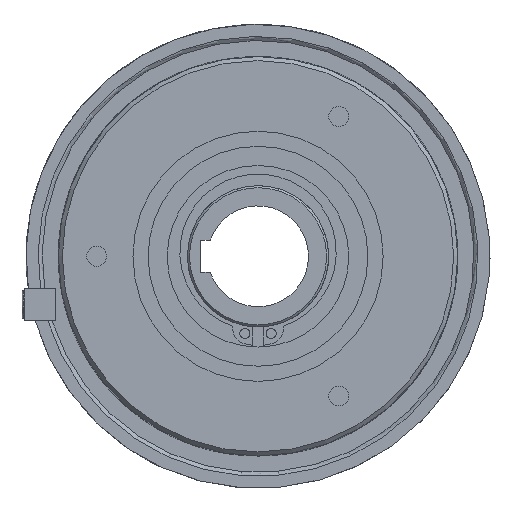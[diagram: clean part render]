
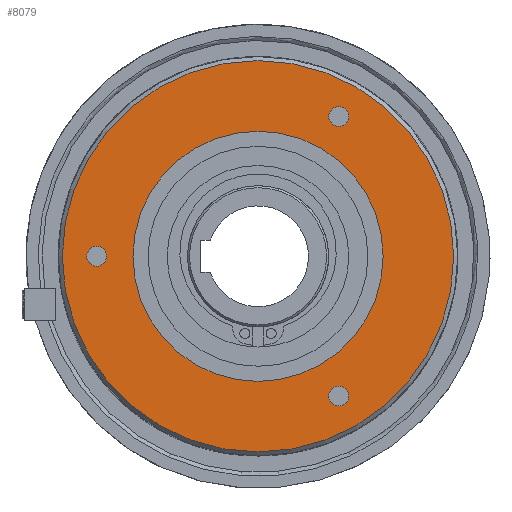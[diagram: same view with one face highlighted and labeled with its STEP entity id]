
A CAD part, left-side view. The second image highlights one B-rep face of the part: STEP entity #8079.
In plain terms, the highlighted planar face has unit normal (-1, 0, 0).
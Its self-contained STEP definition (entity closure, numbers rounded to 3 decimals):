
#73=CARTESIAN_POINT('',(-33.9,48.5,0.));
#74=VERTEX_POINT('',#73);
#75=CARTESIAN_POINT('',(-33.9,0.,0.));
#76=DIRECTION('',(1.0,0.0,0.0));
#77=DIRECTION('',(0.0,-1.0,0.0));
#78=AXIS2_PLACEMENT_3D('',#75,#76,#77);
#79=CIRCLE('',#78,48.5);
#80=EDGE_CURVE('',#74,#74,#79,.T.);
#8027=CARTESIAN_POINT('',(-33.9,40.25,0.));
#8028=DIRECTION('',(-1.0,0.0,0.0));
#8029=DIRECTION('',(0.0,0.0,1.0));
#8030=AXIS2_PLACEMENT_3D('',#8027,#8028,#8029);
#8031=PLANE('',#8030);
#8032=ORIENTED_EDGE('',*,*,#80,.F.);
#8033=EDGE_LOOP('',(#8032));
#8034=FACE_OUTER_BOUND('',#8033,.T.);
#8035=CARTESIAN_POINT('',(-33.9,31.0,0.));
#8036=VERTEX_POINT('',#8035);
#8037=CARTESIAN_POINT('',(-33.9,0.,0.));
#8038=DIRECTION('',(1.0,0.0,0.0));
#8039=DIRECTION('',(0.0,1.0,0.0));
#8040=AXIS2_PLACEMENT_3D('',#8037,#8038,#8039);
#8041=CIRCLE('',#8040,31.0);
#8042=EDGE_CURVE('',#8036,#8036,#8041,.T.);
#8043=ORIENTED_EDGE('',*,*,#8042,.T.);
#8044=EDGE_LOOP('',(#8043));
#8045=FACE_BOUND('',#8044,.T.);
#8046=CARTESIAN_POINT('',(-33.9,40.0,2.458));
#8047=VERTEX_POINT('',#8046);
#8048=CARTESIAN_POINT('',(-33.9,40.0,0.));
#8049=DIRECTION('',(1.0,0.0,0.0));
#8050=DIRECTION('',(0.0,0.0,1.0));
#8051=AXIS2_PLACEMENT_3D('',#8048,#8049,#8050);
#8052=CIRCLE('',#8051,2.459);
#8053=EDGE_CURVE('',#8047,#8047,#8052,.T.);
#8054=ORIENTED_EDGE('',*,*,#8053,.T.);
#8055=EDGE_LOOP('',(#8054));
#8056=FACE_BOUND('',#8055,.T.);
#8057=CARTESIAN_POINT('',(-33.9,-20.,-32.183));
#8058=VERTEX_POINT('',#8057);
#8059=CARTESIAN_POINT('',(-33.9,-20.,-34.641));
#8060=DIRECTION('',(1.0,0.0,0.0));
#8061=DIRECTION('',(0.0,0.0,1.0));
#8062=AXIS2_PLACEMENT_3D('',#8059,#8060,#8061);
#8063=CIRCLE('',#8062,2.459);
#8064=EDGE_CURVE('',#8058,#8058,#8063,.T.);
#8065=ORIENTED_EDGE('',*,*,#8064,.T.);
#8066=EDGE_LOOP('',(#8065));
#8067=FACE_BOUND('',#8066,.T.);
#8068=CARTESIAN_POINT('',(-33.9,-20.,37.1));
#8069=VERTEX_POINT('',#8068);
#8070=CARTESIAN_POINT('',(-33.9,-20.,34.641));
#8071=DIRECTION('',(1.0,0.0,0.0));
#8072=DIRECTION('',(0.0,0.0,1.0));
#8073=AXIS2_PLACEMENT_3D('',#8070,#8071,#8072);
#8074=CIRCLE('',#8073,2.459);
#8075=EDGE_CURVE('',#8069,#8069,#8074,.T.);
#8076=ORIENTED_EDGE('',*,*,#8075,.T.);
#8077=EDGE_LOOP('',(#8076));
#8078=FACE_BOUND('',#8077,.T.);
#8079=ADVANCED_FACE('',(#8034,#8045,#8056,#8067,#8078),#8031,.T.);
